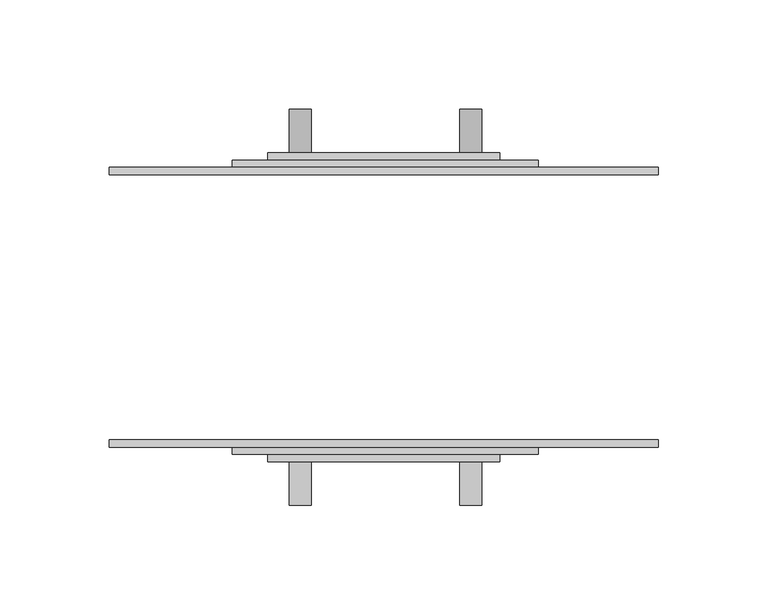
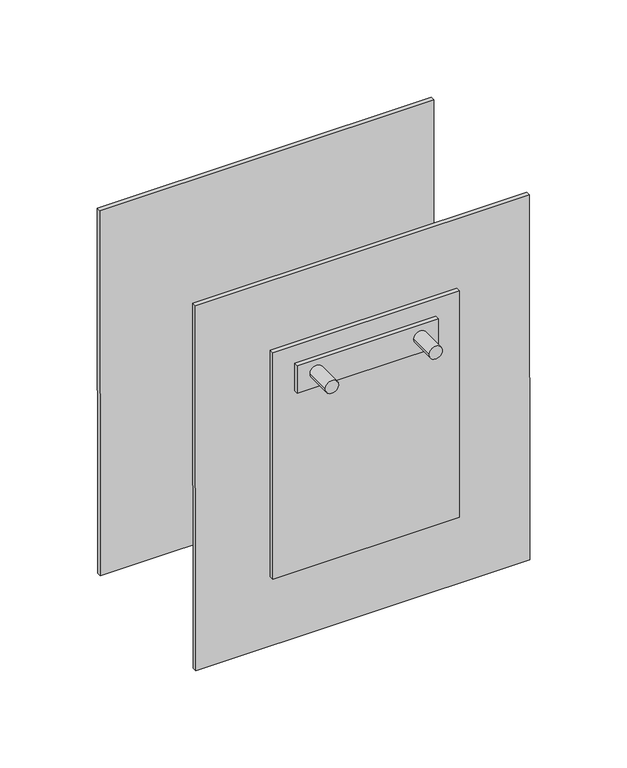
"""IFC4 building model written with IfcOpenShell, lengths in millimetres: proxy geometry, Distribution_Socket_Single_rotated : Distribution_Socket_Single_rotated."""

from ifc_helpers import new_model, si_unit, point, frame, frame_2d, origin, place, context, project, spatial, polyline, circle_curve, trimmed, segment, composite_curve, outline, extrude, source, transform, mapped, element, save


def electrical_equipment_6cdaa866(model_context):
    return source(origin(), model_context, "Body", "SweptSolid", [
        extrude(outline(composite_curve([segment(trimmed(circle_curve(frame_2d((65.9108106, -38.3495044)), 5.0), [point((65.9071337, -43.349503))], [point((65.9144874, -33.3495057))], False, "CARTESIAN"), True, "CONTINUOUS"), segment(trimmed(circle_curve(frame_2d((65.9108106, -38.3495044)), 5.0), [point((65.9144874, -33.3495057))], [point((65.9071337, -43.349503))], False, "CARTESIAN"), True, "CONTINUOUS")], self_intersect=False)), frame((0.0, 69.5, 0.0), z_axis=(0.0, 1.0, 0.0), x_axis=(0.0, 0.0, 1.0)), (0.0, 0.0, 1.0), 20.9),
        extrude(outline(composite_curve([segment(trimmed(circle_curve(frame_2d((65.9681666, 39.6461612)), 5.0), [point((65.9644897, 34.6461626))], [point((65.9718434, 44.6461599))], False, "CARTESIAN"), True, "CONTINUOUS"), segment(trimmed(circle_curve(frame_2d((65.9681666, 39.6461612)), 5.0), [point((65.9718434, 44.6461599))], [point((65.9644897, 34.6461626))], False, "CARTESIAN"), True, "CONTINUOUS")], self_intersect=False)), frame((0.0, 69.5, 0.0), z_axis=(0.0, 1.0, 0.0), x_axis=(0.0, 0.0, 1.0)), (0.0, 0.0, 1.0), 20.9),
        extrude(outline(composite_curve([segment(trimmed(circle_curve(frame_2d((65.9108106, -38.3495044)), 5.0), [point((65.9071337, -43.349503))], [point((65.9144874, -33.3495057))], False, "CARTESIAN"), True, "CONTINUOUS"), segment(trimmed(circle_curve(frame_2d((65.9108106, -38.3495044)), 5.0), [point((65.9144874, -33.3495057))], [point((65.9071337, -43.349503))], False, "CARTESIAN"), True, "CONTINUOUS")], self_intersect=False)), frame((0.0, -90.4, 0.0), z_axis=(0.0, 1.0, 0.0), x_axis=(0.0, 0.0, 1.0)), (0.0, 0.0, 1.0), 20.9),
        extrude(outline(composite_curve([segment(trimmed(circle_curve(frame_2d((65.9681666, 39.6461612)), 5.0), [point((65.9644897, 34.6461626))], [point((65.9718434, 44.6461599))], False, "CARTESIAN"), True, "CONTINUOUS"), segment(trimmed(circle_curve(frame_2d((65.9681666, 39.6461612)), 5.0), [point((65.9718434, 44.6461599))], [point((65.9644897, 34.6461626))], False, "CARTESIAN"), True, "CONTINUOUS")], self_intersect=False)), frame((0.0, -90.4, 0.0), z_axis=(0.0, 1.0, 0.0), x_axis=(0.0, 0.0, 1.0)), (0.0, 0.0, 1.0), 20.9),
        extrude(outline(polyline([(106.0000706, 0.0), (106.0000706, -3.3705022), (0.0, -3.3705022), (0.0, 0.0), (106.0000706, 0.0)])), frame((-53.0397311, 70.6115, 53.9610106), z_axis=(-0.0007353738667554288, 0.0, 0.9999997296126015), x_axis=(0.9999997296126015, 0.0, 0.0007353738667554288)), (0.0, 0.0, 1.0), 22.0),
        extrude(outline(polyline([(106.0000706, -141.223), (0.0, -141.223), (0.0, -137.8524978), (106.0000706, -137.8524978), (106.0000706, -141.223)])), frame((-53.0397311, 70.6115, 53.9610106), z_axis=(-0.0007353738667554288, 0.0, 0.9999997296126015), x_axis=(0.9999997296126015, 0.0, 0.0007353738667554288)), (0.0, 0.0, 1.0), 22.0),
        extrude(outline(polyline([(3.3704978, 0.0), (3.3704978, -140.0000302), (0.0, -140.0000302), (0.0, 0.0), (3.3704978, 0.0)])), frame((-69.3139377, 63.8705, -90.050996), z_axis=(-0.0007353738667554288, 0.0, 0.9999997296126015), x_axis=(0.0, 1.0, 0.0)), (0.0, 0.0, 1.0), 180.0),
        extrude(outline(polyline([(-131.1114978, 0.0), (-127.7410004, 0.0), (-127.7410004, -140.0000302), (-131.1114978, -140.0000302), (-131.1114978, 0.0)])), frame((-69.3139377, 63.8705, -90.050996), z_axis=(-0.0007353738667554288, 0.0, 0.9999997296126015), x_axis=(0.0, 1.0, 0.0)), (0.0, 0.0, 1.0), 180.0),
        extrude(outline(polyline([(250.7451946, 0.0), (250.7451946, -3.3705), (0.0, -3.3705), (0.0, 0.0), (250.7451946, 0.0)])), frame((-125.2659342, 63.8705, -145.0921565), z_axis=(-0.0007353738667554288, 0.0, 0.9999997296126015), x_axis=(0.9999997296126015, 0.0, 0.0007353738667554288)), (0.0, 0.0, 1.0), 290.0),
        extrude(outline(polyline([(0.0, -127.7410004), (0.0, -124.3705), (250.7451946, -124.3705), (250.7451946, -127.7410004), (0.0, -127.7410004)])), frame((-125.2659342, 63.8705, -145.0921565), z_axis=(-0.0007353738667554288, 0.0, 0.9999997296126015), x_axis=(0.9999997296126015, 0.0, 0.0007353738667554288)), (0.0, 0.0, 1.0), 290.0),
    ])


if __name__ == "__main__":
    model = new_model("IFC4")
    model_context = context("Model", 3, world=origin())
    ifc_project = project(units=[si_unit("LENGTHUNIT", "METRE", prefix="MILLI")], contexts=[model_context])
    site = spatial("IfcSite", under=ifc_project)
    building = spatial("IfcBuilding", under=site)
    placement = place(None, origin())
    electrical_equipment_shape = electrical_equipment_6cdaa866(model_context)
    element("IfcBuildingElementProxy", 1, Name="Distribution_Socket_Single_rotated : Distribution_Socket_Single_rotated", ObjectType="Distribution_Socket_Single_rotated : Distribution_Socket_Single_rotated", at=placement, inside=building, context=model_context, shape_type="MappedRepresentation", body=[
        mapped(electrical_equipment_shape, transform((0.0, 0.0, 0.0), x_axis=(1.0, 0.0, 0.0), y_axis=(0.0, 1.0, 0.0), z_axis=(0.0, 0.0, 1.0))),
    ])
    save(model, "model.ifc")
